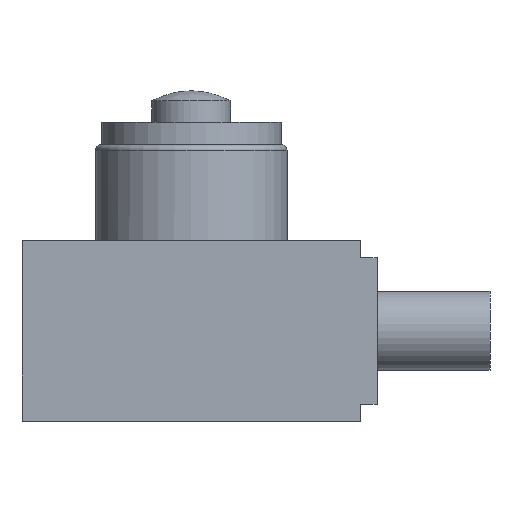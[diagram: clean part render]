
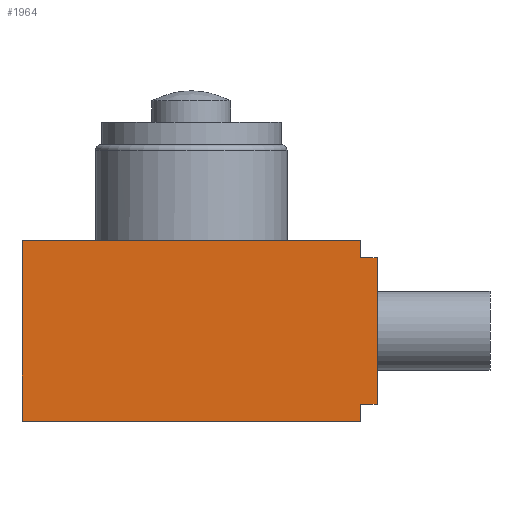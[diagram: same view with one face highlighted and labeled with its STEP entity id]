
A CAD part, front view. The second image highlights one B-rep face of the part: STEP entity #1964.
In plain terms, the highlighted planar face has unit normal (0, -1, 0) as drawn and (0, 0, -1) by its records, which use the part's own axes.
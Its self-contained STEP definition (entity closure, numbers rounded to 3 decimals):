
#180=LINE('',#3079,#352);
#184=LINE('',#3090,#356);
#192=LINE('',#3105,#364);
#224=LINE('',#3208,#396);
#240=LINE('',#3253,#412);
#256=LINE('',#3286,#428);
#259=LINE('',#3291,#431);
#260=LINE('',#3293,#432);
#352=VECTOR('',#2521,13.);
#356=VECTOR('',#2529,1.5);
#364=VECTOR('',#2537,1.5);
#396=VECTOR('',#2641,30.);
#412=VECTOR('',#2685,16.);
#428=VECTOR('',#2723,30.);
#431=VECTOR('',#2730,1.5);
#432=VECTOR('',#2733,1.5);
#496=PLANE('',#2165);
#642=FACE_OUTER_BOUND('',#784,.T.);
#784=EDGE_LOOP('',(#1803,#1804,#1805,#1806,#1807,#1808,#1809,#1810));
#975=VERTEX_POINT('',#3076);
#976=VERTEX_POINT('',#3078);
#978=VERTEX_POINT('',#3083);
#980=VERTEX_POINT('',#3087);
#981=VERTEX_POINT('',#3089);
#988=VERTEX_POINT('',#3103);
#1023=VERTEX_POINT('',#3206);
#1038=VERTEX_POINT('',#3251);
#1196=EDGE_CURVE('',#976,#975,#180,.T.);
#1201=EDGE_CURVE('',#981,#980,#184,.T.);
#1209=EDGE_CURVE('',#978,#988,#192,.T.);
#1258=EDGE_CURVE('',#988,#1023,#224,.T.);
#1280=EDGE_CURVE('',#1038,#1023,#240,.T.);
#1297=EDGE_CURVE('',#1038,#981,#256,.T.);
#1300=EDGE_CURVE('',#980,#976,#259,.T.);
#1301=EDGE_CURVE('',#978,#975,#260,.T.);
#1803=ORIENTED_EDGE('',*,*,#1196,.T.);
#1804=ORIENTED_EDGE('',*,*,#1301,.F.);
#1805=ORIENTED_EDGE('',*,*,#1209,.T.);
#1806=ORIENTED_EDGE('',*,*,#1258,.T.);
#1807=ORIENTED_EDGE('',*,*,#1280,.F.);
#1808=ORIENTED_EDGE('',*,*,#1297,.T.);
#1809=ORIENTED_EDGE('',*,*,#1201,.T.);
#1810=ORIENTED_EDGE('',*,*,#1300,.T.);
#1964=ADVANCED_FACE('',(#642),#496,.T.);
#2165=AXIS2_PLACEMENT_3D('',#3292,#2731,#2732);
#2521=DIRECTION('',(0.,-1.,0.));
#2529=DIRECTION('',(0.,-1.,0.));
#2537=DIRECTION('',(0.,-1.,0.));
#2641=DIRECTION('',(-1.,0.,0.));
#2685=DIRECTION('',(0.,-1.,0.));
#2723=DIRECTION('',(1.,0.,0.));
#2730=DIRECTION('',(1.,0.,0.));
#2731=DIRECTION('center_axis',(0.,0.,-1.));
#2732=DIRECTION('ref_axis',(-1.,0.,0.));
#2733=DIRECTION('',(1.,0.,0.));
#3076=CARTESIAN_POINT('',(16.5,-14.5,-40.));
#3078=CARTESIAN_POINT('',(16.5,-1.5,-40.));
#3079=CARTESIAN_POINT('',(16.5,-1.5,-40.));
#3083=CARTESIAN_POINT('',(15.,-14.5,-40.));
#3087=CARTESIAN_POINT('',(15.,-1.5,-40.));
#3089=CARTESIAN_POINT('',(15.,0.,-40.));
#3090=CARTESIAN_POINT('',(15.,0.,-40.));
#3103=CARTESIAN_POINT('',(15.,-16.,-40.));
#3105=CARTESIAN_POINT('',(15.,-14.5,-40.));
#3206=CARTESIAN_POINT('',(-15.,-16.,-40.));
#3208=CARTESIAN_POINT('',(15.,-16.,-40.));
#3251=CARTESIAN_POINT('',(-15.,0.,-40.));
#3253=CARTESIAN_POINT('',(-15.,0.,-40.));
#3286=CARTESIAN_POINT('',(-15.,0.,-40.));
#3291=CARTESIAN_POINT('',(15.,-1.5,-40.));
#3292=CARTESIAN_POINT('Origin',(15.,-1.5,-40.));
#3293=CARTESIAN_POINT('',(15.,-14.5,-40.));
